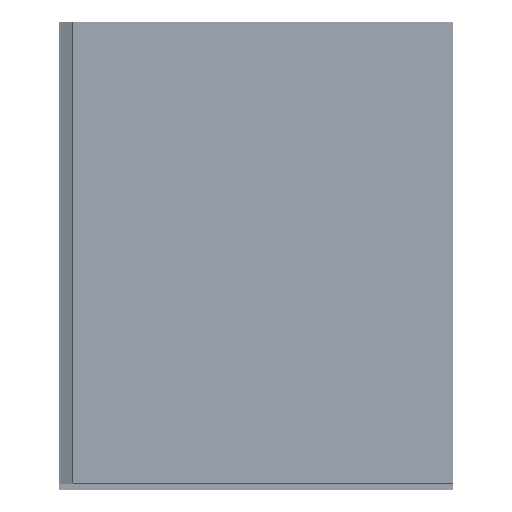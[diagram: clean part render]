
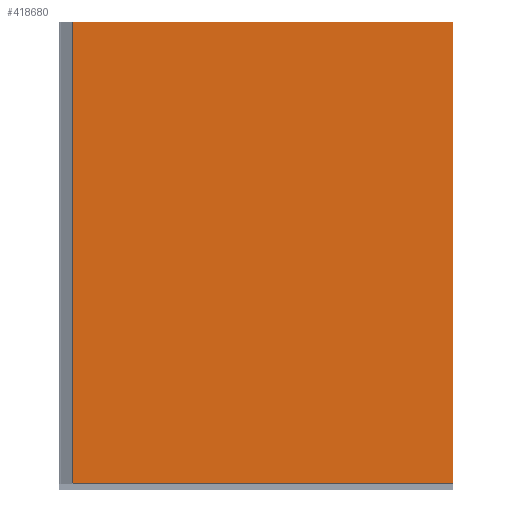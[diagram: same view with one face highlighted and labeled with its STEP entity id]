
A CAD part, left-side view. The second image highlights one B-rep face of the part: STEP entity #418680.
In plain terms, the highlighted free-form (B-spline) face has degree [1, 1] with [2, 2] control points.
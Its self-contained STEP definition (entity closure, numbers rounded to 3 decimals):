
#418387=CARTESIAN_POINT('',(8622.756,-1107.736,582.5));
#418388=VERTEX_POINT('',#418387);
#418389=CARTESIAN_POINT('',(8622.756,-628.19,582.5));
#418390=VERTEX_POINT('',#418389);
#418391=CARTESIAN_POINT('',(8622.756,-1107.736,582.5));
#418392=DIRECTION('',(0.0,1.0,0.0));
#418393=VECTOR('',#418392,479.545);
#418394=LINE('',#418391,#418393);
#418395=EDGE_CURVE('',#418388,#418390,#418394,.T.);
#418435=CARTESIAN_POINT('',(8622.756,-627.943,582.277));
#418436=VERTEX_POINT('',#418435);
#418437=CARTESIAN_POINT('',(8622.756,-628.19,582.5));
#418438=DIRECTION('',(0.0,0.743,-0.669));
#418439=VECTOR('',#418438,0.333);
#418440=LINE('',#418437,#418439);
#418441=EDGE_CURVE('',#418390,#418436,#418440,.T.);
#418474=CARTESIAN_POINT('',(8622.756,-627.943,0.723));
#418475=VERTEX_POINT('',#418474);
#418476=CARTESIAN_POINT('',(8622.756,-627.943,582.277));
#418477=DIRECTION('',(0.0,0.0,-1.0));
#418478=VECTOR('',#418477,581.555);
#418479=LINE('',#418476,#418478);
#418480=EDGE_CURVE('',#418436,#418475,#418479,.T.);
#418506=CARTESIAN_POINT('',(8622.756,-628.19,0.5));
#418507=VERTEX_POINT('',#418506);
#418514=CARTESIAN_POINT('',(8622.756,-627.943,0.723));
#418515=DIRECTION('',(0.0,-0.743,-0.669));
#418516=VECTOR('',#418515,0.333);
#418517=LINE('',#418514,#418516);
#418518=EDGE_CURVE('',#418475,#418507,#418517,.T.);
#418536=CARTESIAN_POINT('',(8622.756,-1107.736,0.5));
#418537=VERTEX_POINT('',#418536);
#418544=CARTESIAN_POINT('',(8622.756,-628.19,0.5));
#418545=DIRECTION('',(0.0,-1.0,0.0));
#418546=VECTOR('',#418545,479.545);
#418547=LINE('',#418544,#418546);
#418548=EDGE_CURVE('',#418507,#418537,#418547,.T.);
#418561=CARTESIAN_POINT('',(8622.756,-1107.943,0.707));
#418562=VERTEX_POINT('',#418561);
#418569=CARTESIAN_POINT('',(8622.756,-1107.736,0.5));
#418570=DIRECTION('',(0.0,-0.707,0.707));
#418571=VECTOR('',#418570,0.293);
#418572=LINE('',#418569,#418571);
#418573=EDGE_CURVE('',#418537,#418562,#418572,.T.);
#418585=CARTESIAN_POINT('',(8622.756,-1107.943,582.293));
#418586=VERTEX_POINT('',#418585);
#418593=CARTESIAN_POINT('',(8622.756,-1107.943,0.707));
#418594=DIRECTION('',(0.0,0.0,1.0));
#418595=VECTOR('',#418594,581.586);
#418596=LINE('',#418593,#418595);
#418597=EDGE_CURVE('',#418562,#418586,#418596,.T.);
#418615=CARTESIAN_POINT('',(8622.756,-1107.943,582.293));
#418616=DIRECTION('',(0.0,0.707,0.707));
#418617=VECTOR('',#418616,0.293);
#418618=LINE('',#418615,#418617);
#418619=EDGE_CURVE('',#418586,#418388,#418618,.T.);
#418665=CARTESIAN_POINT('',(8622.756,-627.943,0.5));
#418666=CARTESIAN_POINT('',(8622.756,-1107.943,0.5));
#418667=CARTESIAN_POINT('',(8622.756,-627.943,582.5));
#418668=CARTESIAN_POINT('',(8622.756,-1107.943,582.5));
#418669=B_SPLINE_SURFACE_WITH_KNOTS('',1,1,((#418665,#418667),(#418666,#418668)),.UNSPECIFIED.,.F.,.F.,.U.,(2,2),(2,2),(0.0,480.),(0.0,582.),.UNSPECIFIED.);
#418670=ORIENTED_EDGE('',*,*,#418395,.T.);
#418671=ORIENTED_EDGE('',*,*,#418441,.T.);
#418672=ORIENTED_EDGE('',*,*,#418480,.T.);
#418673=ORIENTED_EDGE('',*,*,#418518,.T.);
#418674=ORIENTED_EDGE('',*,*,#418548,.T.);
#418675=ORIENTED_EDGE('',*,*,#418573,.T.);
#418676=ORIENTED_EDGE('',*,*,#418597,.T.);
#418677=ORIENTED_EDGE('',*,*,#418619,.T.);
#418678=EDGE_LOOP('',(#418670,#418671,#418672,#418673,#418674,#418675,#418676,#418677));
#418679=FACE_OUTER_BOUND('',#418678,.T.);
#418680=ADVANCED_FACE('',(#418679),#418669,.T.);
